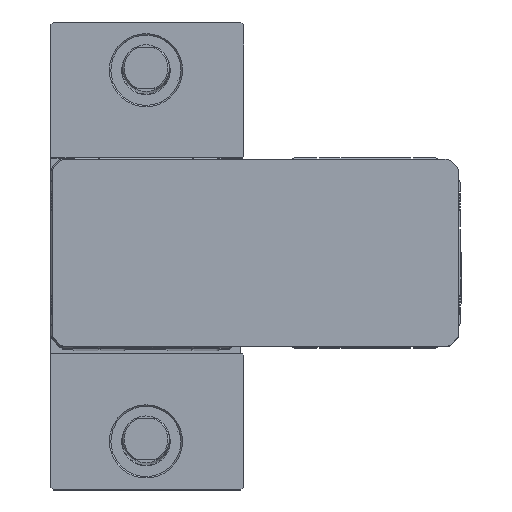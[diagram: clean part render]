
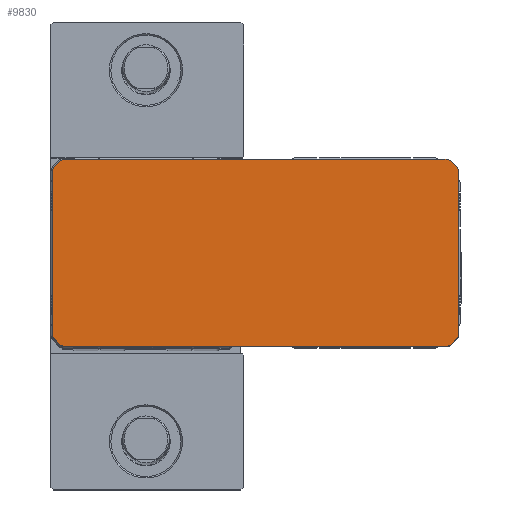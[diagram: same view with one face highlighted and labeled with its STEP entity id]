
A CAD part, top view. The second image highlights one B-rep face of the part: STEP entity #9830.
In plain terms, the highlighted planar face has unit normal (0, 0, 1).
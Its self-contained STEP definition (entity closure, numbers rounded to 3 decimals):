
#351 = VERTEX_POINT ( 'NONE', #9729 ) ;
#549 = VECTOR ( 'NONE', #9159, 1000. ) ;
#1057 = AXIS2_PLACEMENT_3D ( 'NONE', #36316, #15371, #39847 ) ;
#1254 = LINE ( 'NONE', #27838, #17651 ) ;
#1367 = CARTESIAN_POINT ( 'NONE',  ( 106.561, 29.061, 594. ) ) ;
#1813 = CIRCLE ( 'NONE', #11400, 1.5 ) ;
#1964 = DIRECTION ( 'NONE',  ( 0., 0., 1. ) ) ;
#2083 = DIRECTION ( 'NONE',  ( 0.707, 0.707, 0. ) ) ;
#2098 = LINE ( 'NONE', #44136, #10327 ) ;
#2255 = ORIENTED_EDGE ( 'NONE', *, *, #23019, .T. ) ;
#2579 = DIRECTION ( 'NONE',  ( 0., 0., 1. ) ) ;
#3333 = DIRECTION ( 'NONE',  ( 0.707, -0.707, 0. ) ) ;
#3420 = CARTESIAN_POINT ( 'NONE',  ( -28., 32., 594. ) ) ;
#3592 = VERTEX_POINT ( 'NONE', #39104 ) ;
#3691 = EDGE_CURVE ( 'NONE', #17044, #18438, #44575, .T. ) ;
#4038 = DIRECTION ( 'NONE',  ( 0., 0., 1. ) ) ;
#4279 = EDGE_CURVE ( 'NONE', #351, #45356, #9002, .T. ) ;
#5256 = AXIS2_PLACEMENT_3D ( 'NONE', #22910, #1964, #26467 ) ;
#6204 = VERTEX_POINT ( 'NONE', #30583 ) ;
#6354 = CIRCLE ( 'NONE', #39595, 1.5 ) ;
#6539 = LINE ( 'NONE', #23708, #33317 ) ;
#6819 = VERTEX_POINT ( 'NONE', #37514 ) ;
#6834 = DIRECTION ( 'NONE',  ( 0., -1., 0. ) ) ;
#7120 = ORIENTED_EDGE ( 'NONE', *, *, #36457, .T. ) ;
#7377 = ORIENTED_EDGE ( 'NONE', *, *, #15368, .T. ) ;
#7528 = EDGE_CURVE ( 'NONE', #29720, #9931, #43803, .T. ) ;
#7828 = AXIS2_PLACEMENT_3D ( 'NONE', #19054, #43540, #22583 ) ;
#8387 = EDGE_CURVE ( 'NONE', #6819, #17044, #6539, .T. ) ;
#8456 = VERTEX_POINT ( 'NONE', #42360 ) ;
#8594 = CARTESIAN_POINT ( 'NONE',  ( 106.561, -29.061, 594. ) ) ;
#8646 = VERTEX_POINT ( 'NONE', #1367 ) ;
#8732 = AXIS2_PLACEMENT_3D ( 'NONE', #18845, #43313, #22352 ) ;
#8994 = EDGE_CURVE ( 'NONE', #22571, #351, #34415, .T. ) ;
#9002 = CIRCLE ( 'NONE', #8732, 1.5 ) ;
#9159 = DIRECTION ( 'NONE',  ( -0.707, 0.707, 0. ) ) ;
#9243 = VECTOR ( 'NONE', #20580, 1000. ) ;
#9729 = CARTESIAN_POINT ( 'NONE',  ( 103., -32., 594. ) ) ;
#9830 = ADVANCED_FACE ( 'NONE', ( #20107 ), #12825, .T. ) ;
#9931 = VERTEX_POINT ( 'NONE', #30877 ) ;
#10061 = CARTESIAN_POINT ( 'NONE',  ( -29.061, 31.561, 594. ) ) ;
#10327 = VECTOR ( 'NONE', #2083, 1000. ) ;
#11018 = ORIENTED_EDGE ( 'NONE', *, *, #8387, .T. ) ;
#11019 = ORIENTED_EDGE ( 'NONE', *, *, #3691, .T. ) ;
#11400 = AXIS2_PLACEMENT_3D ( 'NONE', #34968, #14029, #38491 ) ;
#12460 = CIRCLE ( 'NONE', #7828, 1.5 ) ;
#12825 = PLANE ( 'NONE',  #44311 ) ;
#13525 = ORIENTED_EDGE ( 'NONE', *, *, #35008, .T. ) ;
#14029 = DIRECTION ( 'NONE',  ( 0., 0., 1. ) ) ;
#14327 = VERTEX_POINT ( 'NONE', #28267 ) ;
#15368 = EDGE_CURVE ( 'NONE', #6204, #6819, #6354, .T. ) ;
#15371 = DIRECTION ( 'NONE',  ( 0., 0., 1. ) ) ;
#15644 = CARTESIAN_POINT ( 'NONE',  ( -31.561, -29.061, 594. ) ) ;
#15988 = CARTESIAN_POINT ( 'NONE',  ( 106.561, 29.061, 594. ) ) ;
#17044 = VERTEX_POINT ( 'NONE', #3420 ) ;
#17327 = ORIENTED_EDGE ( 'NONE', *, *, #8994, .T. ) ;
#17651 = VECTOR ( 'NONE', #3333, 1000. ) ;
#17678 = ORIENTED_EDGE ( 'NONE', *, *, #7528, .T. ) ;
#18398 = DIRECTION ( 'NONE',  ( 1., 0., 0. ) ) ;
#18438 = VERTEX_POINT ( 'NONE', #28161 ) ;
#18613 = ORIENTED_EDGE ( 'NONE', *, *, #23899, .T. ) ;
#18845 = CARTESIAN_POINT ( 'NONE',  ( 103., -30.5, 594. ) ) ;
#19054 = CARTESIAN_POINT ( 'NONE',  ( 105.5, -28., 594. ) ) ;
#19595 = CARTESIAN_POINT ( 'NONE',  ( -28., -30.5, 594. ) ) ;
#19633 = CIRCLE ( 'NONE', #21119, 1.5 ) ;
#19835 = DIRECTION ( 'NONE',  ( 1., 0., 0. ) ) ;
#20107 = FACE_OUTER_BOUND ( 'NONE', #36772, .T. ) ;
#20219 = VERTEX_POINT ( 'NONE', #42799 ) ;
#20580 = DIRECTION ( 'NONE',  ( -0.707, -0.707, 0. ) ) ;
#20937 = EDGE_CURVE ( 'NONE', #8456, #3592, #43857, .T. ) ;
#21119 = AXIS2_PLACEMENT_3D ( 'NONE', #19595, #44077, #23140 ) ;
#21536 = ORIENTED_EDGE ( 'NONE', *, *, #4279, .T. ) ;
#21764 = AXIS2_PLACEMENT_3D ( 'NONE', #23523, #2579, #27079 ) ;
#22352 = DIRECTION ( 'NONE',  ( 1., 0., 0. ) ) ;
#22407 = EDGE_CURVE ( 'NONE', #8646, #6204, #28507, .T. ) ;
#22571 = VERTEX_POINT ( 'NONE', #44718 ) ;
#22583 = DIRECTION ( 'NONE',  ( 1., 0., 0. ) ) ;
#22837 = CARTESIAN_POINT ( 'NONE',  ( 107., -28., 594. ) ) ;
#22910 = CARTESIAN_POINT ( 'NONE',  ( -30.5, -28., 594. ) ) ;
#22984 = CARTESIAN_POINT ( 'NONE',  ( 104.061, -31.561, 594. ) ) ;
#23019 = EDGE_CURVE ( 'NONE', #20219, #22571, #19633, .T. ) ;
#23140 = DIRECTION ( 'NONE',  ( 1., 0., 0. ) ) ;
#23523 = CARTESIAN_POINT ( 'NONE',  ( 105.5, 28., 594. ) ) ;
#23689 = ORIENTED_EDGE ( 'NONE', *, *, #34743, .T. ) ;
#23708 = CARTESIAN_POINT ( 'NONE',  ( 103., 32., 594. ) ) ;
#23899 = EDGE_CURVE ( 'NONE', #36326, #29720, #12460, .T. ) ;
#25006 = CARTESIAN_POINT ( 'NONE',  ( 103., 30.5, 594. ) ) ;
#25147 = VECTOR ( 'NONE', #18398, 1000. ) ;
#25231 = ORIENTED_EDGE ( 'NONE', *, *, #20937, .T. ) ;
#25282 = VECTOR ( 'NONE', #6834, 1000. ) ;
#26467 = DIRECTION ( 'NONE',  ( 1., 0., 0. ) ) ;
#27079 = DIRECTION ( 'NONE',  ( 1., 0., 0. ) ) ;
#27758 = EDGE_CURVE ( 'NONE', #29654, #20219, #1254, .T. ) ;
#27838 = CARTESIAN_POINT ( 'NONE',  ( -31.561, -29.061, 594. ) ) ;
#28161 = CARTESIAN_POINT ( 'NONE',  ( -29.061, 31.561, 594. ) ) ;
#28267 = CARTESIAN_POINT ( 'NONE',  ( -31.561, 29.061, 594. ) ) ;
#28507 = LINE ( 'NONE', #15988, #549 ) ;
#28518 = DIRECTION ( 'NONE',  ( 1., 0., 0. ) ) ;
#28948 = LINE ( 'NONE', #10061, #9243 ) ;
#29035 = CIRCLE ( 'NONE', #21764, 1.5 ) ;
#29155 = DIRECTION ( 'NONE',  ( 0., 1., 0. ) ) ;
#29654 = VERTEX_POINT ( 'NONE', #15644 ) ;
#29680 = CIRCLE ( 'NONE', #5256, 1.5 ) ;
#29720 = VERTEX_POINT ( 'NONE', #22837 ) ;
#30583 = CARTESIAN_POINT ( 'NONE',  ( 104.061, 31.561, 594. ) ) ;
#30877 = CARTESIAN_POINT ( 'NONE',  ( 107., 28., 594. ) ) ;
#30940 = EDGE_CURVE ( 'NONE', #45356, #36326, #2098, .T. ) ;
#31278 = CARTESIAN_POINT ( 'NONE',  ( -32., 28., 594. ) ) ;
#33317 = VECTOR ( 'NONE', #41130, 1000. ) ;
#34415 = LINE ( 'NONE', #39337, #25147 ) ;
#34500 = VECTOR ( 'NONE', #29155, 1000. ) ;
#34743 = EDGE_CURVE ( 'NONE', #3592, #29654, #29680, .T. ) ;
#34968 = CARTESIAN_POINT ( 'NONE',  ( -30.5, 28., 594. ) ) ;
#35008 = EDGE_CURVE ( 'NONE', #14327, #8456, #1813, .T. ) ;
#36316 = CARTESIAN_POINT ( 'NONE',  ( -28., 30.5, 594. ) ) ;
#36326 = VERTEX_POINT ( 'NONE', #8594 ) ;
#36457 = EDGE_CURVE ( 'NONE', #9931, #8646, #29035, .T. ) ;
#36772 = EDGE_LOOP ( 'NONE', ( #23689, #43087, #2255, #17327, #21536, #38909, #18613, #17678, #7120, #39416, #7377, #11018, #11019, #42011, #13525, #25231 ) ) ;
#37265 = CARTESIAN_POINT ( 'NONE',  ( -30.5, -28., 594. ) ) ;
#37335 = EDGE_CURVE ( 'NONE', #18438, #14327, #28948, .T. ) ;
#37514 = CARTESIAN_POINT ( 'NONE',  ( 103., 32., 594. ) ) ;
#38491 = DIRECTION ( 'NONE',  ( 1., 0., 0. ) ) ;
#38909 = ORIENTED_EDGE ( 'NONE', *, *, #30940, .T. ) ;
#39104 = CARTESIAN_POINT ( 'NONE',  ( -32., -28., 594. ) ) ;
#39337 = CARTESIAN_POINT ( 'NONE',  ( -28., -32., 594. ) ) ;
#39416 = ORIENTED_EDGE ( 'NONE', *, *, #22407, .T. ) ;
#39514 = CARTESIAN_POINT ( 'NONE',  ( 107., -28., 594. ) ) ;
#39595 = AXIS2_PLACEMENT_3D ( 'NONE', #25006, #4038, #28518 ) ;
#39847 = DIRECTION ( 'NONE',  ( 1., 0., 0. ) ) ;
#40809 = DIRECTION ( 'NONE',  ( 0., 0., 1. ) ) ;
#41130 = DIRECTION ( 'NONE',  ( -1., 0., 0. ) ) ;
#42011 = ORIENTED_EDGE ( 'NONE', *, *, #37335, .T. ) ;
#42360 = CARTESIAN_POINT ( 'NONE',  ( -32., 28., 594. ) ) ;
#42799 = CARTESIAN_POINT ( 'NONE',  ( -29.061, -31.561, 594. ) ) ;
#43087 = ORIENTED_EDGE ( 'NONE', *, *, #27758, .T. ) ;
#43313 = DIRECTION ( 'NONE',  ( 0., 0., 1. ) ) ;
#43540 = DIRECTION ( 'NONE',  ( 0., 0., 1. ) ) ;
#43803 = LINE ( 'NONE', #39514, #34500 ) ;
#43857 = LINE ( 'NONE', #31278, #25282 ) ;
#44077 = DIRECTION ( 'NONE',  ( 0., 0., 1. ) ) ;
#44136 = CARTESIAN_POINT ( 'NONE',  ( 104.061, -31.561, 594. ) ) ;
#44311 = AXIS2_PLACEMENT_3D ( 'NONE', #37265, #40809, #19835 ) ;
#44575 = CIRCLE ( 'NONE', #1057, 1.5 ) ;
#44718 = CARTESIAN_POINT ( 'NONE',  ( -28., -32., 594. ) ) ;
#45356 = VERTEX_POINT ( 'NONE', #22984 ) ;
